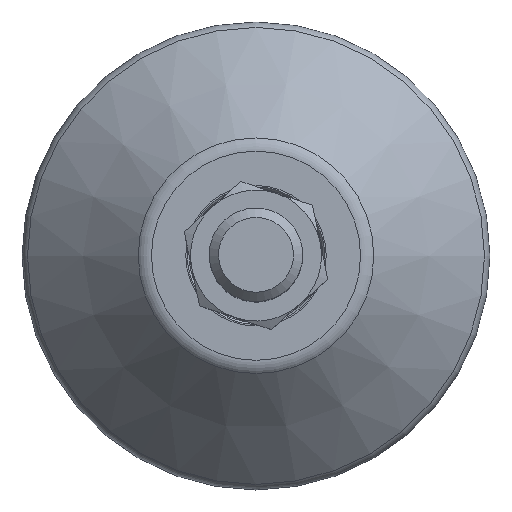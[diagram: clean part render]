
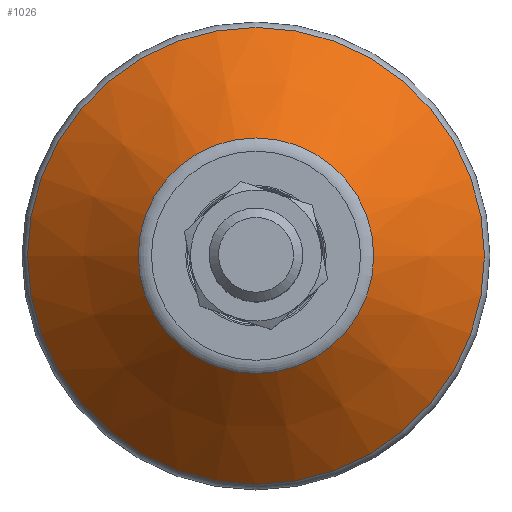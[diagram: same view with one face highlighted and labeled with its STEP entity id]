
A CAD part, top view. The second image highlights one B-rep face of the part: STEP entity #1026.
In plain terms, the highlighted conical face has half-angle 45 degrees and reference radius 18.5 mm.
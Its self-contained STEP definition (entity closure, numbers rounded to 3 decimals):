
#1026=ADVANCED_FACE('',(#2511,#2513),#2515,.T.);
#2511=FACE_BOUND('',#2512,.T.);
#2512=EDGE_LOOP('',(#3681,#3682));
#2513=FACE_BOUND('',#2514,.T.);
#2514=EDGE_LOOP('',(#3683,#3684));
#2515=CONICAL_SURFACE('',#2516,18.5,0.785);
#2516=AXIS2_PLACEMENT_3D('',#2517,#2518,#2519);
#2517=CARTESIAN_POINT('',(0.,0.,11.5));
#2518=DIRECTION('',(0.,0.,-1.));
#2519=DIRECTION('',(1.,0.,0.));
#3681=ORIENTED_EDGE('',*,*,#4390,.T.);
#3682=ORIENTED_EDGE('',*,*,#4389,.T.);
#3683=ORIENTED_EDGE('',*,*,#4393,.F.);
#3684=ORIENTED_EDGE('',*,*,#4394,.F.);
#4389=EDGE_CURVE('',#5095,#5096,#5097,.T.);
#4390=EDGE_CURVE('',#5096,#5095,#5098,.T.);
#4393=EDGE_CURVE('',#5103,#5104,#5105,.T.);
#4394=EDGE_CURVE('',#5104,#5103,#5106,.T.);
#5095=VERTEX_POINT('',#7731);
#5096=VERTEX_POINT('',#7732);
#5097=CIRCLE('',#7733,24.414);
#5098=CIRCLE('',#7737,24.414);
#5103=VERTEX_POINT('',#7751);
#5104=VERTEX_POINT('',#7752);
#5105=CIRCLE('',#7753,12.586);
#5106=CIRCLE('',#7757,12.586);
#7731=CARTESIAN_POINT('',(-24.414,0.,5.586));
#7732=CARTESIAN_POINT('',(24.414,0.,5.586));
#7733=AXIS2_PLACEMENT_3D('',#7734,#7735,#7736);
#7734=CARTESIAN_POINT('',(0.,0.,5.586));
#7735=DIRECTION('',(0.,0.,1.));
#7736=DIRECTION('',(-1.,0.,0.));
#7737=AXIS2_PLACEMENT_3D('',#7738,#7739,#7740);
#7738=CARTESIAN_POINT('',(0.,0.,5.586));
#7739=DIRECTION('',(0.,0.,1.));
#7740=DIRECTION('',(1.,0.,0.));
#7751=CARTESIAN_POINT('',(-12.586,0.,17.414));
#7752=CARTESIAN_POINT('',(12.586,0.,17.414));
#7753=AXIS2_PLACEMENT_3D('',#7754,#7755,#7756);
#7754=CARTESIAN_POINT('',(0.,0.,17.414));
#7755=DIRECTION('',(0.,0.,1.));
#7756=DIRECTION('',(-1.,0.,0.));
#7757=AXIS2_PLACEMENT_3D('',#7758,#7759,#7760);
#7758=CARTESIAN_POINT('',(0.,0.,17.414));
#7759=DIRECTION('',(0.,0.,1.));
#7760=DIRECTION('',(1.,0.,0.));
